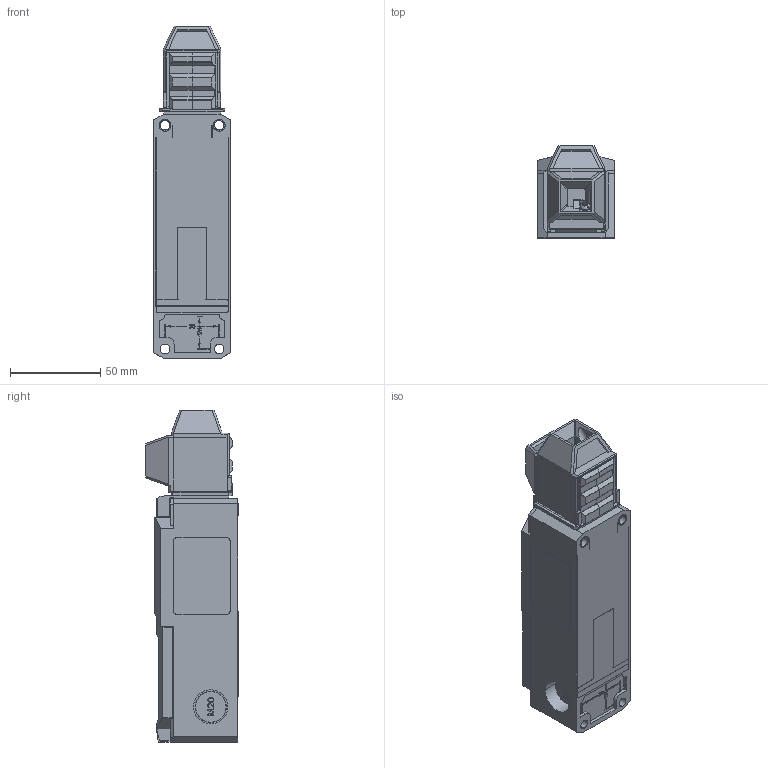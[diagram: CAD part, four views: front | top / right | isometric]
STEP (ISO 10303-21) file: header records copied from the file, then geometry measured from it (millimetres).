
FILE_DESCRIPTION((''),'2;1');
FILE_NAME('6018169052_05_ASM_ASM','2024-06-14T13:10:53',('michael.schnitker'),(''),'CREO PARAMETRIC BY PTC INC, 2022124','CREO PARAMETRIC BY PTC INC, 2022124','');
FILE_SCHEMA(('AUTOMOTIVE_DESIGN { 1 0 10303 214 1 1 1 1 }'));
Products named in the file (4): 6018169052_05_001; 6018169052_05_002; 6018169052_05_003; 6018169052_05_ASM_ASM
Assembly tree (3 placements, depth 2):
  6018169052_05_ASM_ASM
    6018169052_05_001
    6018169052_05_002
    6018169052_05_003
Bounding box: 42.6 x 51.2 x 184 mm (x, y, z)
Volume: 296268.4 mm3; surface area: 86921.7 mm2
Topology: 7 solids, 7 shells, 2686 faces, 7510 edges, 4742 vertices
Faces by surface type: plane 1893, cylinder 437, bspline 114, cone 84, torus 78, sphere 76, extrusion 4
Entity records: 98628 total; most frequent: CARTESIAN_POINT 28470, ORIENTED_EDGE 14980, DIRECTION 13339, EDGE_CURVE 7490, VECTOR 5759, LINE 5755, VERTEX_POINT 4742, AXIS2_PLACEMENT_3D 3784
